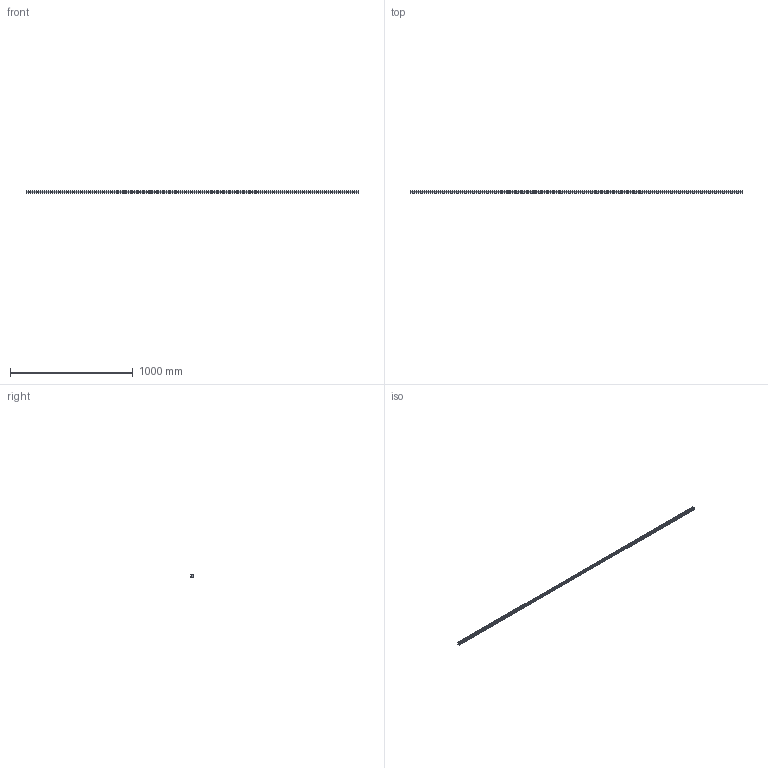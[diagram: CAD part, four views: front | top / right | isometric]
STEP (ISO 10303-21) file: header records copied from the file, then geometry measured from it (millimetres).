
FILE_DESCRIPTION (( 'STEP AP203' ), '1' );
FILE_NAME ('L1018.20R-2700.step', '2023-08-06T09:13:56', ( '' ), ( '' ), 'SwSTEP 2.0', 'SolidWorks 2019', '' );
FILE_SCHEMA (( 'CONFIG_CONTROL_DESIGN' ));
Length unit declared in the file: millimetre
Products named in the file (1): L1018.20R-2700
Bounding box: 2700 x 19.3 x 20 mm (x, y, z)
Volume: 856246.3 mm3; surface area: 228507.8 mm2
Topology: 1 solids, 1 shells, 434 faces, 981 edges, 549 vertices
Faces by surface type: cylinder 183, cone 180, plane 71
Entity records: 11528 total; most frequent: DIRECTION 2217, CARTESIAN_POINT 1875, ORIENTED_EDGE 1782, EDGE_CURVE 891, AXIS2_PLACEMENT_3D 891, VERTEX_POINT 549, EDGE_LOOP 524, CIRCLE 456
